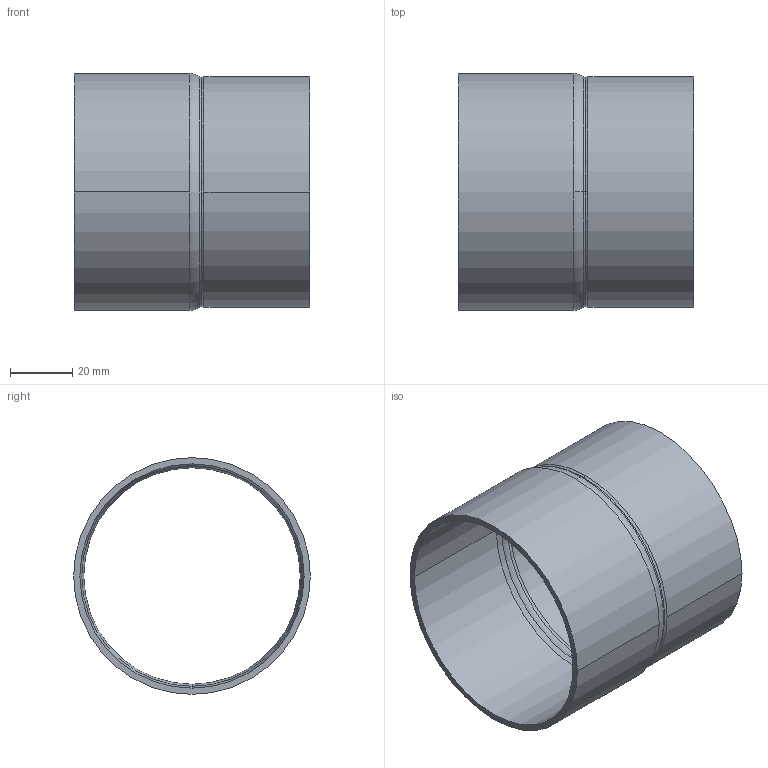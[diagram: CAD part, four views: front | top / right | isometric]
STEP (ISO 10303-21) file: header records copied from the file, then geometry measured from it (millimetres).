
FILE_DESCRIPTION((''),'2;1');
FILE_NAME('G:\Technics\CAD\Bauteile\Serie 15243\152437670.stp','2005-10-21T12:49:53',('boden'),(''),'Autodesk Inventor 8','Autodesk Inventor 8','');
FILE_SCHEMA(('AUTOMOTIVE_DESIGN { 1 0 10303 214 1 1 1 1 }'));
Length unit declared in the file: millimetre
Products named in the file (1): 152437670
Bounding box: 75.8 x 76.1 x 76.1 mm (x, y, z)
Volume: 34995.8 mm3; surface area: 35917 mm2
Topology: 1 solids, 1 shells, 22 faces, 54 edges, 34 vertices
Faces by surface type: cylinder 8, torus 6, bspline 6, plane 2
Entity records: 943 total; most frequent: CARTESIAN_POINT 375, DIRECTION 134, ORIENTED_EDGE 108, AXIS2_PLACEMENT_3D 63, EDGE_CURVE 54, CIRCLE 46, VERTEX_POINT 34, EDGE_LOOP 24
